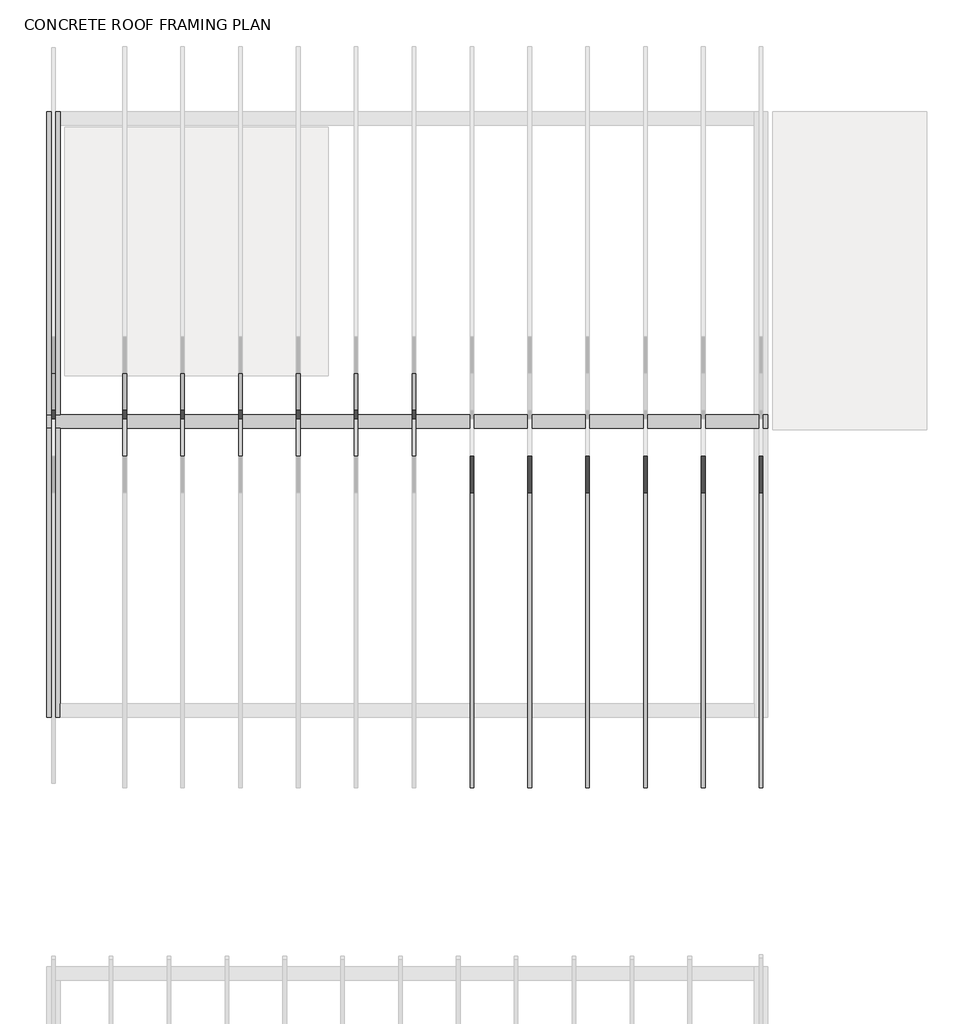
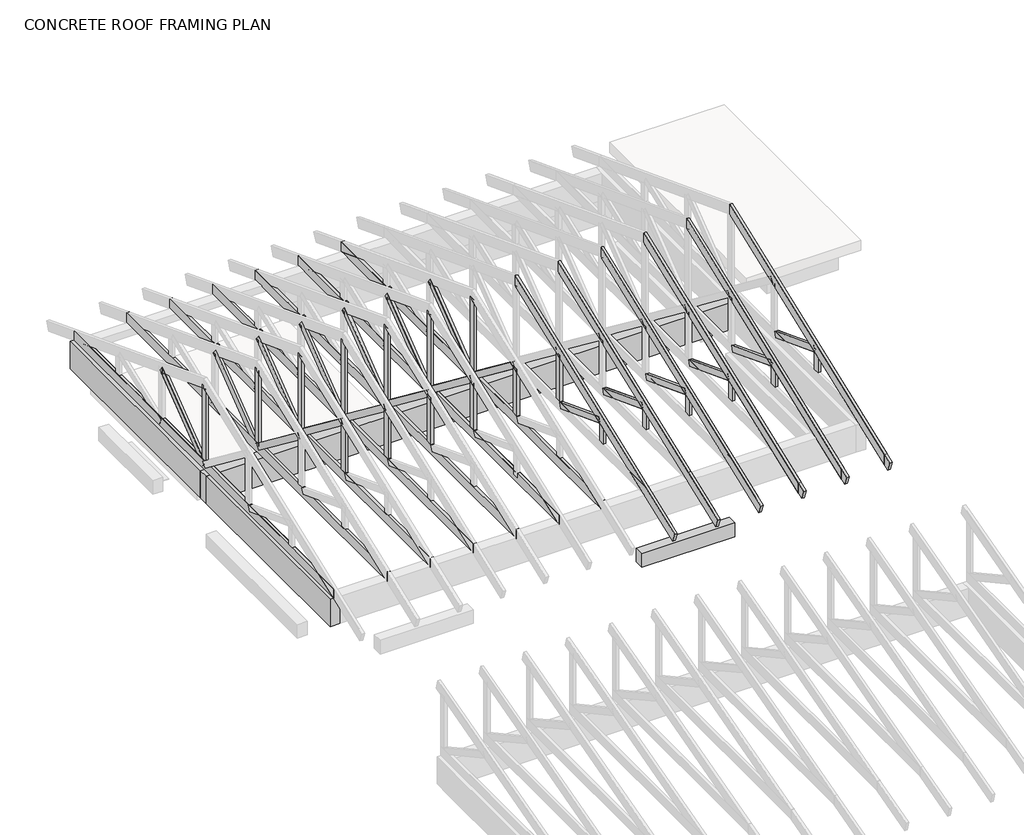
# One storey, part 3 of 6: 54 beams.
"""IFC4 building model written with IfcOpenShell, lengths in millimetres."""

from ifc_helpers import new_model, si_unit, frame, origin, place, context, project, spatial, polyline, outline, extrude, faceted_brep, element, save

model = new_model("IFC4")

# Units and contexts
model_context = context("Model", 3, world=origin())
ifc_project = project(units=[si_unit("LENGTHUNIT", "METRE", prefix="MILLI")], contexts=[model_context])

# Site, building, storey
site = spatial("IfcSite", under=ifc_project)
building = spatial("IfcBuilding", under=site)
storey = spatial("IfcBuildingStorey", under=building, Name="CONCRETE ROOF FRAMING PLAN", Elevation=3048.0)

# Beams
placement = place(None, origin())
element("IfcBeam", 1, ObjectType="Concrete-Rectangular Beam : 5 5/8 x 16", at=placement, inside=storey, context=model_context, shape_type="Brep", body=[
    faceted_brep([(7610.475, 3052.7625, 3200.4), (7610.475, 3195.6375, 3200.4), (7467.6, 3195.6375, 3200.4), (152.4, 3195.6375, 3200.4), (9.525, 3195.6375, 3200.4), (9.525, 3052.7625, 3200.4), (152.4, 3052.7625, 3200.4), (7467.6, 3052.7625, 3200.4), (7610.475, 3052.7625, 2794.0), (9.525, 3052.7625, 2794.0), (152.4, 3052.7625, 2794.0), (3606.8, 3052.7625, 2794.0), (5384.8, 3052.7625, 2794.0), (7467.6, 3052.7625, 2794.0), (7610.475, 3195.6375, 2794.0), (9.525, 3195.6375, 2794.0), (152.4, 3195.6375, 2794.0), (3606.8, 3195.6375, 2794.0), (5384.8, 3195.6375, 2794.0), (7467.6, 3195.6375, 2794.0)], [[[0, 1, 2, 3, 4, 5, 6, 7]], [[8, 0, 7, 6, 5, 9, 10, 11, 12, 13]], [[14, 8, 13, 12, 11, 10, 9, 15, 16, 17, 18, 19]], [[1, 14, 19, 18, 17, 16, 15, 4, 3, 2]], [[1, 0, 8, 14]], [[5, 4, 15, 9]]]),
])
element("IfcBeam", 2, ObjectType="Concrete-Rectangular Beam : 5 5/8 x 16", at=placement, inside=storey, context=model_context, shape_type="Brep", body=[
    faceted_brep([(9.525, 9.525, 3200.4), (152.4, 9.525, 3200.4), (152.4, 152.4, 3200.4), (152.4, 3052.7625, 3200.4), (9.525, 3052.7625, 3200.4), (9.525, 9.525, 2794.0), (9.525, 3052.7625, 2794.0), (152.4, 9.525, 2794.0), (152.4, 3052.7625, 2794.0), (152.4, 152.4, 2794.0)], [[[0, 1, 2, 3, 4]], [[5, 0, 4, 6]], [[7, 5, 6, 8, 9]], [[1, 7, 9, 8, 3, 2]], [[1, 0, 5, 7]], [[4, 3, 8, 6]]]),
    faceted_brep([(9.525, 6391.2749888, 3200.4), (152.4, 6391.2749888, 3200.4), (152.4, 6391.2749888, 2794.0), (9.525, 6391.2749888, 2794.0), (152.4, 3195.6375, 3200.4), (9.525, 3195.6375, 3200.4), (9.525, 3195.6375, 2794.0), (152.4, 3195.6375, 2794.0), (152.4, 6248.4, 3200.4)], [[[0, 1, 2, 3]], [[4, 5, 6, 7]], [[1, 0, 5, 4, 8]], [[0, 3, 6, 5]], [[3, 2, 7, 6]], [[2, 1, 8, 4, 7]]]),
])
element("IfcBeam", 3, ObjectType="Concrete-Rectangular Beam : 5 5/8 x 8", at=placement, inside=storey, context=model_context, shape_type="SweptSolid", body=[
    extrude(outline(polyline([(5753.1, 152.4), (5753.1, 9.525), (4432.3, 9.525), (4432.3, 152.4), (5753.1, 152.4)])), frame((0.0, 0.0, 2133.6), z_axis=(0.0, 0.0, 1.0), x_axis=(1.0, 0.0, 0.0)), (0.0, 0.0, 1.0), 203.2),
])
element("IfcBeam", 4, ObjectType="Dimension Lumber : 2x4", at=placement, inside=storey, context=model_context, shape_type="SweptSolid", body=[
    extrude(outline(polyline([(61.9125, 3154.3624888), (61.9125, 3243.2624888), (100.0125, 3243.2624888), (100.0125, 3154.3624888), (61.9125, 3154.3624888)])), frame((0.0, 0.0, 3270.25), z_axis=(0.0, 0.0, 1.0), x_axis=(1.0, 0.0, 0.0)), (0.0, 0.0, 1.0), 1178.509814),
    extrude(outline(polyline([(100.0125, 3243.2624888), (100.0125, 3154.3624888), (61.9125, 3154.3624888), (61.9125, 3243.2624888), (100.0125, 3243.2624888)])), frame((0.0, 0.0, 3340.1), z_axis=(0.0, 0.0, 1.0), x_axis=(1.0, 0.0, 0.0)), (0.0, 0.0, 1.0), 1108.659814),
    extrude(outline(polyline([(3243.2624888, 4397.6909709), (3243.2624888, 3340.1), (3154.3624888, 3340.1), (3154.3624888, 4431.6587321), (3243.2624888, 4397.6909709)])), frame((61.9125, 0.0, 0.0), z_axis=(1.0, 0.0, 0.0), x_axis=(0.0, 1.0, 0.0)), (0.0, 0.0, 1.0), 38.1),
    extrude(outline(polyline([(3243.2624888, 4397.6909709), (3243.2624888, 3340.1), (3154.3624888, 3340.1), (3154.3624888, 4397.6909709), (3198.8124888, 4414.6748515), (3243.2624888, 4397.6909709)])), frame((61.9125, 0.0, 0.0), z_axis=(1.0, 0.0, 0.0), x_axis=(0.0, 1.0, 0.0)), (0.0, 0.0, 1.0), 38.1),
])
element("IfcBeam", 5, ObjectType="Dimension Lumber : 2x4", at=placement, inside=storey, context=model_context, shape_type="SweptSolid", body=[
    extrude(outline(polyline([(0.0, -38.1), (0.0, 0.0), (1323.713521, 0.0), (1323.713521, -38.1), (0.0, -38.1)])), frame((61.9125, 3225.8019048, 3234.9318188), z_axis=(0.0, -0.6071859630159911, 0.7945597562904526), x_axis=(0.0, 0.7945597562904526, 0.6071859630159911)), (0.0, 0.0, 1.0), 88.9),
    extrude(outline(polyline([(3217.011195, 3340.1), (4223.5925653, 4109.3084501), (4277.5713974, 4038.6720878), (3363.4243294, 3340.1), (3217.011195, 3340.1)])), frame((61.9125, 0.0, 0.0), z_axis=(1.0, 0.0, 0.0), x_axis=(0.0, 1.0, 0.0)), (0.0, 0.0, 1.0), 38.1),
    extrude(outline(polyline([(3217.011195, 3340.1), (4148.3995827, 4051.847544), (4246.0083389, 4014.552258), (3363.4243294, 3340.1), (3217.011195, 3340.1)])), frame((61.9125, 0.0, 0.0), z_axis=(1.0, 0.0, 0.0), x_axis=(0.0, 1.0, 0.0)), (0.0, 0.0, 1.0), 38.1),
])
element("IfcBeam", 6, ObjectType="Dimension Lumber : 2x4", at=placement, inside=storey, context=model_context, shape_type="SweptSolid", body=[
    extrude(outline(polyline([(7519.9875, 1027.1124888), (7519.9875, 1116.0124888), (7558.0875, 1116.0124888), (7558.0875, 1027.1124888), (7519.9875, 1027.1124888)])), frame((0.0, 0.0, 3352.8), z_axis=(0.0, 0.0, 1.0), x_axis=(1.0, 0.0, 0.0)), (0.0, 0.0, 1.0), 323.85),
    extrude(outline(polyline([(1116.0124888, 3618.8587321), (1116.0124888, 3352.8), (1027.1124888, 3352.8), (1027.1124888, 3584.8909709), (1116.0124888, 3618.8587321)])), frame((7519.9875, 0.0, 0.0), z_axis=(1.0, 0.0, 0.0), x_axis=(0.0, 1.0, 0.0)), (0.0, 0.0, 1.0), 38.1),
])
element("IfcBeam", 7, ObjectType="Dimension Lumber : 2x4", at=placement, inside=storey, context=model_context, shape_type="SweptSolid", body=[
    extrude(outline(polyline([(0.0, -38.1), (0.0, 0.0), (1032.1068258, 0.0), (1032.1068258, -38.1), (0.0, -38.1)])), frame((7519.9875, 1100.1472704, 3618.1438682), z_axis=(0.0, 0.35692279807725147, 0.9341338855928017), x_axis=(0.0, 0.9341338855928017, -0.35692279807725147)), (0.0, 0.0, 1.0), 88.9),
    extrude(outline(polyline([(1231.6811483, 3663.0545185), (2096.0036667, 3332.8059144), (2064.2732299, 3249.761412), (1107.1444131, 3615.4703331), (1231.6811483, 3663.0545185)])), frame((7519.9875, 0.0, 0.0), z_axis=(1.0, 0.0, 0.0), x_axis=(0.0, 1.0, 0.0)), (0.0, 0.0, 1.0), 38.1),
    extrude(outline(polyline([(1231.6811483, 3663.0545185), (2076.9136771, 3340.1), (1827.8402067, 3340.1), (1107.1444131, 3615.4703331), (1231.6811483, 3663.0545185)])), frame((7519.9875, 0.0, 0.0), z_axis=(1.0, 0.0, 0.0), x_axis=(0.0, 1.0, 0.0)), (0.0, 0.0, 1.0), 38.1),
])
element("IfcBeam", 8, ObjectType="Dimension Lumber : 2x4", at=placement, inside=storey, context=model_context, shape_type="SweptSolid", body=[
    extrude(outline(polyline([(6910.3875, 1027.1124888), (6910.3875, 1116.0124888), (6948.4875, 1116.0124888), (6948.4875, 1027.1124888), (6910.3875, 1027.1124888)])), frame((0.0, 0.0, 3352.8), z_axis=(0.0, 0.0, 1.0), x_axis=(1.0, 0.0, 0.0)), (0.0, 0.0, 1.0), 323.85),
    extrude(outline(polyline([(1116.0124888, 3618.8587321), (1116.0124888, 3352.8), (1027.1124888, 3352.8), (1027.1124888, 3584.8909709), (1116.0124888, 3618.8587321)])), frame((6910.3875, 0.0, 0.0), z_axis=(1.0, 0.0, 0.0), x_axis=(0.0, 1.0, 0.0)), (0.0, 0.0, 1.0), 38.1),
])
element("IfcBeam", 9, ObjectType="Dimension Lumber : 2x4", at=placement, inside=storey, context=model_context, shape_type="SweptSolid", body=[
    extrude(outline(polyline([(0.0, -38.1), (0.0, 0.0), (1032.1068258, 0.0), (1032.1068258, -38.1), (0.0, -38.1)])), frame((6910.3875, 1100.1472704, 3618.1438682), z_axis=(0.0, 0.35692279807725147, 0.9341338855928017), x_axis=(0.0, 0.9341338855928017, -0.35692279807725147)), (0.0, 0.0, 1.0), 88.9),
    extrude(outline(polyline([(1231.6811483, 3663.0545185), (2096.0036667, 3332.8059144), (2064.2732299, 3249.761412), (1107.1444131, 3615.4703331), (1231.6811483, 3663.0545185)])), frame((6910.3875, 0.0, 0.0), z_axis=(1.0, 0.0, 0.0), x_axis=(0.0, 1.0, 0.0)), (0.0, 0.0, 1.0), 38.1),
    extrude(outline(polyline([(1231.6811483, 3663.0545185), (2076.9136771, 3340.1), (1827.8402067, 3340.1), (1107.1444131, 3615.4703331), (1231.6811483, 3663.0545185)])), frame((6910.3875, 0.0, 0.0), z_axis=(1.0, 0.0, 0.0), x_axis=(0.0, 1.0, 0.0)), (0.0, 0.0, 1.0), 38.1),
])
element("IfcBeam", 10, ObjectType="Dimension Lumber : 2x4", at=placement, inside=storey, context=model_context, shape_type="SweptSolid", body=[
    extrude(outline(polyline([(6300.7875, 1027.1124888), (6300.7875, 1116.0124888), (6338.8875, 1116.0124888), (6338.8875, 1027.1124888), (6300.7875, 1027.1124888)])), frame((0.0, 0.0, 3352.8), z_axis=(0.0, 0.0, 1.0), x_axis=(1.0, 0.0, 0.0)), (0.0, 0.0, 1.0), 323.85),
    extrude(outline(polyline([(1116.0124888, 3618.8587321), (1116.0124888, 3352.8), (1027.1124888, 3352.8), (1027.1124888, 3584.8909709), (1116.0124888, 3618.8587321)])), frame((6300.7875, 0.0, 0.0), z_axis=(1.0, 0.0, 0.0), x_axis=(0.0, 1.0, 0.0)), (0.0, 0.0, 1.0), 38.1),
])
element("IfcBeam", 11, ObjectType="Dimension Lumber : 2x4", at=placement, inside=storey, context=model_context, shape_type="SweptSolid", body=[
    extrude(outline(polyline([(0.0, -38.1), (0.0, 0.0), (1032.1068258, 0.0), (1032.1068258, -38.1), (0.0, -38.1)])), frame((6300.7875, 1100.1472704, 3618.1438682), z_axis=(0.0, 0.35692279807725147, 0.9341338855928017), x_axis=(0.0, 0.9341338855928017, -0.35692279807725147)), (0.0, 0.0, 1.0), 88.9),
    extrude(outline(polyline([(1231.6811483, 3663.0545185), (2096.0036667, 3332.8059144), (2064.2732299, 3249.761412), (1107.1444131, 3615.4703331), (1231.6811483, 3663.0545185)])), frame((6300.7875, 0.0, 0.0), z_axis=(1.0, 0.0, 0.0), x_axis=(0.0, 1.0, 0.0)), (0.0, 0.0, 1.0), 38.1),
    extrude(outline(polyline([(1231.6811483, 3663.0545185), (2076.9136771, 3340.1), (1827.8402067, 3340.1), (1107.1444131, 3615.4703331), (1231.6811483, 3663.0545185)])), frame((6300.7875, 0.0, 0.0), z_axis=(1.0, 0.0, 0.0), x_axis=(0.0, 1.0, 0.0)), (0.0, 0.0, 1.0), 38.1),
])
element("IfcBeam", 12, ObjectType="Dimension Lumber : 2x4", at=placement, inside=storey, context=model_context, shape_type="SweptSolid", body=[
    extrude(outline(polyline([(5691.1875, 1027.1124888), (5691.1875, 1116.0124888), (5729.2875, 1116.0124888), (5729.2875, 1027.1124888), (5691.1875, 1027.1124888)])), frame((0.0, 0.0, 3352.8), z_axis=(0.0, 0.0, 1.0), x_axis=(1.0, 0.0, 0.0)), (0.0, 0.0, 1.0), 323.85),
    extrude(outline(polyline([(1116.0124888, 3618.8587321), (1116.0124888, 3352.8), (1027.1124888, 3352.8), (1027.1124888, 3584.8909709), (1116.0124888, 3618.8587321)])), frame((5691.1875, 0.0, 0.0), z_axis=(1.0, 0.0, 0.0), x_axis=(0.0, 1.0, 0.0)), (0.0, 0.0, 1.0), 38.1),
])
element("IfcBeam", 13, ObjectType="Dimension Lumber : 2x4", at=placement, inside=storey, context=model_context, shape_type="SweptSolid", body=[
    extrude(outline(polyline([(0.0, -38.1), (0.0, 0.0), (1032.1068258, 0.0), (1032.1068258, -38.1), (0.0, -38.1)])), frame((5691.1875, 1100.1472704, 3618.1438682), z_axis=(0.0, 0.35692279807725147, 0.9341338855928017), x_axis=(0.0, 0.9341338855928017, -0.35692279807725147)), (0.0, 0.0, 1.0), 88.9),
    extrude(outline(polyline([(1231.6811483, 3663.0545185), (2096.0036667, 3332.8059144), (2064.2732299, 3249.761412), (1107.1444131, 3615.4703331), (1231.6811483, 3663.0545185)])), frame((5691.1875, 0.0, 0.0), z_axis=(1.0, 0.0, 0.0), x_axis=(0.0, 1.0, 0.0)), (0.0, 0.0, 1.0), 38.1),
    extrude(outline(polyline([(1231.6811483, 3663.0545185), (2076.9136771, 3340.1), (1827.8402067, 3340.1), (1107.1444131, 3615.4703331), (1231.6811483, 3663.0545185)])), frame((5691.1875, 0.0, 0.0), z_axis=(1.0, 0.0, 0.0), x_axis=(0.0, 1.0, 0.0)), (0.0, 0.0, 1.0), 38.1),
])
element("IfcBeam", 14, ObjectType="Dimension Lumber : 2x4", at=placement, inside=storey, context=model_context, shape_type="SweptSolid", body=[
    extrude(outline(polyline([(5081.5875, 1027.1124888), (5081.5875, 1116.0124888), (5119.6875, 1116.0124888), (5119.6875, 1027.1124888), (5081.5875, 1027.1124888)])), frame((0.0, 0.0, 3352.8), z_axis=(0.0, 0.0, 1.0), x_axis=(1.0, 0.0, 0.0)), (0.0, 0.0, 1.0), 323.85),
    extrude(outline(polyline([(1116.0124888, 3618.8587321), (1116.0124888, 3352.8), (1027.1124888, 3352.8), (1027.1124888, 3584.8909709), (1116.0124888, 3618.8587321)])), frame((5081.5875, 0.0, 0.0), z_axis=(1.0, 0.0, 0.0), x_axis=(0.0, 1.0, 0.0)), (0.0, 0.0, 1.0), 38.1),
])
element("IfcBeam", 15, ObjectType="Dimension Lumber : 2x4", at=placement, inside=storey, context=model_context, shape_type="SweptSolid", body=[
    extrude(outline(polyline([(0.0, -38.1), (0.0, 0.0), (1032.1068258, 0.0), (1032.1068258, -38.1), (0.0, -38.1)])), frame((5081.5875, 1100.1472704, 3618.1438682), z_axis=(0.0, 0.35692279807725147, 0.9341338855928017), x_axis=(0.0, 0.9341338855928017, -0.35692279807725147)), (0.0, 0.0, 1.0), 88.9),
    extrude(outline(polyline([(1231.6811483, 3663.0545185), (2096.0036667, 3332.8059144), (2064.2732299, 3249.761412), (1107.1444131, 3615.4703331), (1231.6811483, 3663.0545185)])), frame((5081.5875, 0.0, 0.0), z_axis=(1.0, 0.0, 0.0), x_axis=(0.0, 1.0, 0.0)), (0.0, 0.0, 1.0), 38.1),
    extrude(outline(polyline([(1231.6811483, 3663.0545185), (2076.9136771, 3340.1), (1827.8402067, 3340.1), (1107.1444131, 3615.4703331), (1231.6811483, 3663.0545185)])), frame((5081.5875, 0.0, 0.0), z_axis=(1.0, 0.0, 0.0), x_axis=(0.0, 1.0, 0.0)), (0.0, 0.0, 1.0), 38.1),
])
element("IfcBeam", 16, ObjectType="Dimension Lumber : 2x4", at=placement, inside=storey, context=model_context, shape_type="SweptSolid", body=[
    extrude(outline(polyline([(4471.9875, 2090.7374888), (4471.9875, 2179.6374888), (4510.0875, 2179.6374888), (4510.0875, 2090.7374888), (4471.9875, 2090.7374888)])), frame((0.0, 0.0, 3340.1), z_axis=(0.0, 0.0, 1.0), x_axis=(1.0, 0.0, 0.0)), (0.0, 0.0, 1.0), 702.294826),
    extrude(outline(polyline([(2179.6374888, 4025.2587321), (2179.6374888, 3340.1), (2090.7374888, 3340.1), (2090.7374888, 3991.2909709), (2179.6374888, 4025.2587321)])), frame((4471.9875, 0.0, 0.0), z_axis=(1.0, 0.0, 0.0), x_axis=(0.0, 1.0, 0.0)), (0.0, 0.0, 1.0), 38.1),
])
element("IfcBeam", 17, ObjectType="Dimension Lumber : 2x4", at=placement, inside=storey, context=model_context, shape_type="SweptSolid", body=[
    extrude(outline(polyline([(4471.9875, 1027.1124888), (4471.9875, 1116.0124888), (4510.0875, 1116.0124888), (4510.0875, 1027.1124888), (4471.9875, 1027.1124888)])), frame((0.0, 0.0, 3352.8), z_axis=(0.0, 0.0, 1.0), x_axis=(1.0, 0.0, 0.0)), (0.0, 0.0, 1.0), 323.85),
    extrude(outline(polyline([(1116.0124888, 3618.8587321), (1116.0124888, 3352.8), (1027.1124888, 3352.8), (1027.1124888, 3584.8909709), (1116.0124888, 3618.8587321)])), frame((4471.9875, 0.0, 0.0), z_axis=(1.0, 0.0, 0.0), x_axis=(0.0, 1.0, 0.0)), (0.0, 0.0, 1.0), 38.1),
])
element("IfcBeam", 18, ObjectType="Dimension Lumber : 2x4", at=placement, inside=storey, context=model_context, shape_type="SweptSolid", body=[
    extrude(outline(polyline([(0.0, -38.1), (0.0, 0.0), (1032.1068258, 0.0), (1032.1068258, -38.1), (0.0, -38.1)])), frame((4471.9875, 1100.1472704, 3618.1438682), z_axis=(0.0, 0.35692279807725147, 0.9341338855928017), x_axis=(0.0, 0.9341338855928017, -0.35692279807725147)), (0.0, 0.0, 1.0), 88.9),
    extrude(outline(polyline([(1231.6811483, 3663.0545185), (2096.0036667, 3332.8059144), (2064.2732299, 3249.761412), (1107.1444131, 3615.4703331), (1231.6811483, 3663.0545185)])), frame((4471.9875, 0.0, 0.0), z_axis=(1.0, 0.0, 0.0), x_axis=(0.0, 1.0, 0.0)), (0.0, 0.0, 1.0), 38.1),
    extrude(outline(polyline([(1231.6811483, 3663.0545185), (2076.9136771, 3340.1), (1827.8402067, 3340.1), (1107.1444131, 3615.4703331), (1231.6811483, 3663.0545185)])), frame((4471.9875, 0.0, 0.0), z_axis=(1.0, 0.0, 0.0), x_axis=(0.0, 1.0, 0.0)), (0.0, 0.0, 1.0), 38.1),
])
element("IfcBeam", 19, ObjectType="Dimension Lumber : 2x4", at=placement, inside=storey, context=model_context, shape_type="SweptSolid", body=[
    extrude(outline(polyline([(3862.3875, 3154.3624888), (3862.3875, 3243.2624888), (3900.4875, 3243.2624888), (3900.4875, 3154.3624888), (3862.3875, 3154.3624888)])), frame((0.0, 0.0, 3308.7927893), z_axis=(0.0, 0.0, 1.0), x_axis=(1.0, 0.0, 0.0)), (0.0, 0.0, 1.0), 1133.0716475),
    extrude(outline(polyline([(3243.2624888, 4397.6909709), (3243.2624888, 3308.7927893), (3154.3624888, 3308.7927893), (3154.3624888, 4431.6587321), (3243.2624888, 4397.6909709)])), frame((3862.3875, 0.0, 0.0), z_axis=(1.0, 0.0, 0.0), x_axis=(0.0, 1.0, 0.0)), (0.0, 0.0, 1.0), 38.1),
    extrude(outline(polyline([(3243.2624888, 4397.6909709), (3243.2624888, 3308.7927893), (3154.3624888, 3308.7927893), (3154.3624888, 4397.6909709), (3198.8124888, 4414.6748515), (3243.2624888, 4397.6909709)])), frame((3862.3875, 0.0, 0.0), z_axis=(1.0, 0.0, 0.0), x_axis=(0.0, 1.0, 0.0)), (0.0, 0.0, 1.0), 38.1),
    extrude(outline(polyline([(3243.2624888, 4397.6909709), (3243.2624888, 3340.1), (3154.3624888, 3340.1), (3154.3624888, 4397.6909709), (3198.8124888, 4414.6748515), (3243.2624888, 4397.6909709)])), frame((3862.3875, 0.0, 0.0), z_axis=(1.0, 0.0, 0.0), x_axis=(0.0, 1.0, 0.0)), (0.0, 0.0, 1.0), 38.1),
])
element("IfcBeam", 20, ObjectType="Dimension Lumber : 2x4", at=placement, inside=storey, context=model_context, shape_type="SweptSolid", body=[
    extrude(outline(polyline([(3862.3875, 2090.7374888), (3862.3875, 2179.6374888), (3900.4875, 2179.6374888), (3900.4875, 2090.7374888), (3862.3875, 2090.7374888)])), frame((0.0, 0.0, 3340.1), z_axis=(0.0, 0.0, 1.0), x_axis=(1.0, 0.0, 0.0)), (0.0, 0.0, 1.0), 702.294826),
    extrude(outline(polyline([(2179.6374888, 4025.2587321), (2179.6374888, 3340.1), (2090.7374888, 3340.1), (2090.7374888, 3991.2909709), (2179.6374888, 4025.2587321)])), frame((3862.3875, 0.0, 0.0), z_axis=(1.0, 0.0, 0.0), x_axis=(0.0, 1.0, 0.0)), (0.0, 0.0, 1.0), 38.1),
])
element("IfcBeam", 21, ObjectType="Dimension Lumber : 2x4", at=placement, inside=storey, context=model_context, shape_type="SweptSolid", body=[
    extrude(outline(polyline([(0.0, -38.1), (0.0, 0.0), (1268.1063806, 0.0), (1268.1063806, -38.1), (0.0, -38.1)])), frame((3862.3875, 3262.4051884, 3262.9032833), z_axis=(0.0, -0.6071859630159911, 0.7945597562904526), x_axis=(0.0, 0.7945597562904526, 0.6071859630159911)), (0.0, 0.0, 1.0), 88.9),
    extrude(outline(polyline([(3217.011195, 3340.1), (4216.012653, 4103.5160396), (4269.9914851, 4032.8796772), (3363.4243294, 3340.1), (3217.011195, 3340.1)])), frame((3862.3875, 0.0, 0.0), z_axis=(1.0, 0.0, 0.0), x_axis=(0.0, 1.0, 0.0)), (0.0, 0.0, 1.0), 38.1),
    extrude(outline(polyline([(3217.011195, 3340.1), (4148.3995827, 4051.847544), (4246.0083389, 4014.552258), (3363.4243294, 3340.1), (3217.011195, 3340.1)])), frame((3862.3875, 0.0, 0.0), z_axis=(1.0, 0.0, 0.0), x_axis=(0.0, 1.0, 0.0)), (0.0, 0.0, 1.0), 38.1),
])
element("IfcBeam", 22, ObjectType="Dimension Lumber : 2x4", at=placement, inside=storey, context=model_context, shape_type="SweptSolid", body=[
    extrude(outline(polyline([(0.0, -38.1), (0.0, 0.0), (1278.704905, 0.0), (1278.704905, -38.1), (0.0, -38.1)])), frame((3862.3875, 2137.2208186, 4025.5532429), z_axis=(0.0, 0.6071859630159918, 0.7945597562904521), x_axis=(0.0, 0.7945597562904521, -0.6071859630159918)), (0.0, 0.0, 1.0), 88.9),
    extrude(outline(polyline([(2249.2253949, 4051.847544), (3207.2071084, 3319.7779361), (3153.2282763, 3249.1415737), (2151.6166386, 4014.552258), (2249.2253949, 4051.847544)])), frame((3862.3875, 0.0, 0.0), z_axis=(1.0, 0.0, 0.0), x_axis=(0.0, 1.0, 0.0)), (0.0, 0.0, 1.0), 38.1),
    extrude(outline(polyline([(2249.2253949, 4051.847544), (3180.6137825, 3340.1), (3034.2006481, 3340.1), (2151.6166386, 4014.552258), (2249.2253949, 4051.847544)])), frame((3862.3875, 0.0, 0.0), z_axis=(1.0, 0.0, 0.0), x_axis=(0.0, 1.0, 0.0)), (0.0, 0.0, 1.0), 38.1),
])
element("IfcBeam", 23, ObjectType="Dimension Lumber : 2x4", at=placement, inside=storey, context=model_context, shape_type="SweptSolid", body=[
    extrude(outline(polyline([(3252.7875, 3154.3624888), (3252.7875, 3243.2624888), (3290.8875, 3243.2624888), (3290.8875, 3154.3624888), (3252.7875, 3154.3624888)])), frame((0.0, 0.0, 3308.7927893), z_axis=(0.0, 0.0, 1.0), x_axis=(1.0, 0.0, 0.0)), (0.0, 0.0, 1.0), 1133.0716475),
    extrude(outline(polyline([(3243.2624888, 4397.6909709), (3243.2624888, 3308.7927893), (3154.3624888, 3308.7927893), (3154.3624888, 4431.6587321), (3243.2624888, 4397.6909709)])), frame((3252.7875, 0.0, 0.0), z_axis=(1.0, 0.0, 0.0), x_axis=(0.0, 1.0, 0.0)), (0.0, 0.0, 1.0), 38.1),
    extrude(outline(polyline([(3243.2624888, 4397.6909709), (3243.2624888, 3308.7927893), (3154.3624888, 3308.7927893), (3154.3624888, 4397.6909709), (3198.8124888, 4414.6748515), (3243.2624888, 4397.6909709)])), frame((3252.7875, 0.0, 0.0), z_axis=(1.0, 0.0, 0.0), x_axis=(0.0, 1.0, 0.0)), (0.0, 0.0, 1.0), 38.1),
    extrude(outline(polyline([(3243.2624888, 4397.6909709), (3243.2624888, 3340.1), (3154.3624888, 3340.1), (3154.3624888, 4397.6909709), (3198.8124888, 4414.6748515), (3243.2624888, 4397.6909709)])), frame((3252.7875, 0.0, 0.0), z_axis=(1.0, 0.0, 0.0), x_axis=(0.0, 1.0, 0.0)), (0.0, 0.0, 1.0), 38.1),
])
element("IfcBeam", 24, ObjectType="Dimension Lumber : 2x4", at=placement, inside=storey, context=model_context, shape_type="SweptSolid", body=[
    extrude(outline(polyline([(3252.7875, 2090.7374888), (3252.7875, 2179.6374888), (3290.8875, 2179.6374888), (3290.8875, 2090.7374888), (3252.7875, 2090.7374888)])), frame((0.0, 0.0, 3340.1), z_axis=(0.0, 0.0, 1.0), x_axis=(1.0, 0.0, 0.0)), (0.0, 0.0, 1.0), 702.294826),
    extrude(outline(polyline([(2179.6374888, 4025.2587321), (2179.6374888, 3340.1), (2090.7374888, 3340.1), (2090.7374888, 3991.2909709), (2179.6374888, 4025.2587321)])), frame((3252.7875, 0.0, 0.0), z_axis=(1.0, 0.0, 0.0), x_axis=(0.0, 1.0, 0.0)), (0.0, 0.0, 1.0), 38.1),
])
element("IfcBeam", 25, ObjectType="Dimension Lumber : 2x4", at=placement, inside=storey, context=model_context, shape_type="SweptSolid", body=[
    extrude(outline(polyline([(0.0, -38.1), (0.0, 0.0), (1268.1063806, 0.0), (1268.1063806, -38.1), (0.0, -38.1)])), frame((3252.7875, 3262.4051884, 3262.9032833), z_axis=(0.0, -0.6071859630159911, 0.7945597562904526), x_axis=(0.0, 0.7945597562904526, 0.6071859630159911)), (0.0, 0.0, 1.0), 88.9),
    extrude(outline(polyline([(3217.011195, 3340.1), (4216.012653, 4103.5160396), (4269.9914851, 4032.8796772), (3363.4243294, 3340.1), (3217.011195, 3340.1)])), frame((3252.7875, 0.0, 0.0), z_axis=(1.0, 0.0, 0.0), x_axis=(0.0, 1.0, 0.0)), (0.0, 0.0, 1.0), 38.1),
    extrude(outline(polyline([(3217.011195, 3340.1), (4148.3995827, 4051.847544), (4246.0083389, 4014.552258), (3363.4243294, 3340.1), (3217.011195, 3340.1)])), frame((3252.7875, 0.0, 0.0), z_axis=(1.0, 0.0, 0.0), x_axis=(0.0, 1.0, 0.0)), (0.0, 0.0, 1.0), 38.1),
])
element("IfcBeam", 26, ObjectType="Dimension Lumber : 2x4", at=placement, inside=storey, context=model_context, shape_type="SweptSolid", body=[
    extrude(outline(polyline([(0.0, -38.1), (0.0, 0.0), (1278.704905, 0.0), (1278.704905, -38.1), (0.0, -38.1)])), frame((3252.7875, 2137.2208186, 4025.5532429), z_axis=(0.0, 0.6071859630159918, 0.7945597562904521), x_axis=(0.0, 0.7945597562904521, -0.6071859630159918)), (0.0, 0.0, 1.0), 88.9),
    extrude(outline(polyline([(2249.2253949, 4051.847544), (3207.2071084, 3319.7779361), (3153.2282763, 3249.1415737), (2151.6166386, 4014.552258), (2249.2253949, 4051.847544)])), frame((3252.7875, 0.0, 0.0), z_axis=(1.0, 0.0, 0.0), x_axis=(0.0, 1.0, 0.0)), (0.0, 0.0, 1.0), 38.1),
    extrude(outline(polyline([(2249.2253949, 4051.847544), (3180.6137825, 3340.1), (3034.2006481, 3340.1), (2151.6166386, 4014.552258), (2249.2253949, 4051.847544)])), frame((3252.7875, 0.0, 0.0), z_axis=(1.0, 0.0, 0.0), x_axis=(0.0, 1.0, 0.0)), (0.0, 0.0, 1.0), 38.1),
])
element("IfcBeam", 27, ObjectType="Dimension Lumber : 2x4", at=placement, inside=storey, context=model_context, shape_type="SweptSolid", body=[
    extrude(outline(polyline([(2643.1875, 3154.3624888), (2643.1875, 3243.2624888), (2681.2875, 3243.2624888), (2681.2875, 3154.3624888), (2643.1875, 3154.3624888)])), frame((0.0, 0.0, 3308.7927893), z_axis=(0.0, 0.0, 1.0), x_axis=(1.0, 0.0, 0.0)), (0.0, 0.0, 1.0), 1133.0716475),
])
element("IfcBeam", 28, ObjectType="Dimension Lumber : 2x4", at=placement, inside=storey, context=model_context, shape_type="SweptSolid", body=[
    extrude(outline(polyline([(2643.1875, 2090.7374888), (2643.1875, 2179.6374888), (2681.2875, 2179.6374888), (2681.2875, 2090.7374888), (2643.1875, 2090.7374888)])), frame((0.0, 0.0, 3340.1), z_axis=(0.0, 0.0, 1.0), x_axis=(1.0, 0.0, 0.0)), (0.0, 0.0, 1.0), 702.294826),
])
element("IfcBeam", 29, ObjectType="Dimension Lumber : 2x4", at=placement, inside=storey, context=model_context, shape_type="SweptSolid", body=[
    extrude(outline(polyline([(0.0, -38.1), (0.0, 0.0), (1268.1063806, 0.0), (1268.1063806, -38.1), (0.0, -38.1)])), frame((2643.1875, 3262.4051884, 3262.9032833), z_axis=(0.0, -0.6071859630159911, 0.7945597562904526), x_axis=(0.0, 0.7945597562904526, 0.6071859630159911)), (0.0, 0.0, 1.0), 88.9),
])
element("IfcBeam", 30, ObjectType="Dimension Lumber : 2x4", at=placement, inside=storey, context=model_context, shape_type="SweptSolid", body=[
    extrude(outline(polyline([(0.0, -38.1), (0.0, 0.0), (1278.704905, 0.0), (1278.704905, -38.1), (0.0, -38.1)])), frame((2643.1875, 2137.2208186, 4025.5532429), z_axis=(0.0, 0.6071859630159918, 0.7945597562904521), x_axis=(0.0, 0.7945597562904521, -0.6071859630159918)), (0.0, 0.0, 1.0), 88.9),
])
element("IfcBeam", 31, ObjectType="Dimension Lumber : 2x4", at=placement, inside=storey, context=model_context, shape_type="SweptSolid", body=[
    extrude(outline(polyline([(2033.5875, 3154.3624888), (2033.5875, 3243.2624888), (2071.6875, 3243.2624888), (2071.6875, 3154.3624888), (2033.5875, 3154.3624888)])), frame((0.0, 0.0, 3308.7927893), z_axis=(0.0, 0.0, 1.0), x_axis=(1.0, 0.0, 0.0)), (0.0, 0.0, 1.0), 1133.0716475),
])
element("IfcBeam", 32, ObjectType="Dimension Lumber : 2x4", at=placement, inside=storey, context=model_context, shape_type="SweptSolid", body=[
    extrude(outline(polyline([(2033.5875, 2090.7374888), (2033.5875, 2179.6374888), (2071.6875, 2179.6374888), (2071.6875, 2090.7374888), (2033.5875, 2090.7374888)])), frame((0.0, 0.0, 3340.1), z_axis=(0.0, 0.0, 1.0), x_axis=(1.0, 0.0, 0.0)), (0.0, 0.0, 1.0), 702.294826),
])
element("IfcBeam", 33, ObjectType="Dimension Lumber : 2x4", at=placement, inside=storey, context=model_context, shape_type="SweptSolid", body=[
    extrude(outline(polyline([(0.0, -38.1), (0.0, 0.0), (1268.1063806, 0.0), (1268.1063806, -38.1), (0.0, -38.1)])), frame((2033.5875, 3262.4051884, 3262.9032833), z_axis=(0.0, -0.6071859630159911, 0.7945597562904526), x_axis=(0.0, 0.7945597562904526, 0.6071859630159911)), (0.0, 0.0, 1.0), 88.9),
])
element("IfcBeam", 34, ObjectType="Dimension Lumber : 2x4", at=placement, inside=storey, context=model_context, shape_type="SweptSolid", body=[
    extrude(outline(polyline([(0.0, -38.1), (0.0, 0.0), (1278.704905, 0.0), (1278.704905, -38.1), (0.0, -38.1)])), frame((2033.5875, 2137.2208186, 4025.5532429), z_axis=(0.0, 0.6071859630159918, 0.7945597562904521), x_axis=(0.0, 0.7945597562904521, -0.6071859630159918)), (0.0, 0.0, 1.0), 88.9),
])
element("IfcBeam", 35, ObjectType="Dimension Lumber : 2x4", at=placement, inside=storey, context=model_context, shape_type="SweptSolid", body=[
    extrude(outline(polyline([(1423.9875, 3154.3624888), (1423.9875, 3243.2624888), (1462.0875, 3243.2624888), (1462.0875, 3154.3624888), (1423.9875, 3154.3624888)])), frame((0.0, 0.0, 3308.7927893), z_axis=(0.0, 0.0, 1.0), x_axis=(1.0, 0.0, 0.0)), (0.0, 0.0, 1.0), 1133.0716475),
])
element("IfcBeam", 36, ObjectType="Dimension Lumber : 2x4", at=placement, inside=storey, context=model_context, shape_type="SweptSolid", body=[
    extrude(outline(polyline([(1423.9875, 2090.7374888), (1423.9875, 2179.6374888), (1462.0875, 2179.6374888), (1462.0875, 2090.7374888), (1423.9875, 2090.7374888)])), frame((0.0, 0.0, 3340.1), z_axis=(0.0, 0.0, 1.0), x_axis=(1.0, 0.0, 0.0)), (0.0, 0.0, 1.0), 702.294826),
])
element("IfcBeam", 37, ObjectType="Dimension Lumber : 2x4", at=placement, inside=storey, context=model_context, shape_type="SweptSolid", body=[
    extrude(outline(polyline([(0.0, -38.1), (0.0, 0.0), (1268.1063806, 0.0), (1268.1063806, -38.1), (0.0, -38.1)])), frame((1423.9875, 3262.4051884, 3262.9032833), z_axis=(0.0, -0.6071859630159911, 0.7945597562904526), x_axis=(0.0, 0.7945597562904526, 0.6071859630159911)), (0.0, 0.0, 1.0), 88.9),
])
element("IfcBeam", 38, ObjectType="Dimension Lumber : 2x4", at=placement, inside=storey, context=model_context, shape_type="SweptSolid", body=[
    extrude(outline(polyline([(0.0, -38.1), (0.0, 0.0), (1278.704905, 0.0), (1278.704905, -38.1), (0.0, -38.1)])), frame((1423.9875, 2137.2208186, 4025.5532429), z_axis=(0.0, 0.6071859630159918, 0.7945597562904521), x_axis=(0.0, 0.7945597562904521, -0.6071859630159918)), (0.0, 0.0, 1.0), 88.9),
])
element("IfcBeam", 39, ObjectType="Dimension Lumber : 2x4", at=placement, inside=storey, context=model_context, shape_type="SweptSolid", body=[
    extrude(outline(polyline([(814.3875, 3154.3624888), (814.3875, 3243.2624888), (852.4875, 3243.2624888), (852.4875, 3154.3624888), (814.3875, 3154.3624888)])), frame((0.0, 0.0, 3308.7927893), z_axis=(0.0, 0.0, 1.0), x_axis=(1.0, 0.0, 0.0)), (0.0, 0.0, 1.0), 1133.0716475),
])
element("IfcBeam", 40, ObjectType="Dimension Lumber : 2x4", at=placement, inside=storey, context=model_context, shape_type="SweptSolid", body=[
    extrude(outline(polyline([(0.0, -38.1), (0.0, 0.0), (1268.1063806, 0.0), (1268.1063806, -38.1), (0.0, -38.1)])), frame((814.3875, 3262.4051884, 3262.9032833), z_axis=(0.0, -0.6071859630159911, 0.7945597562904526), x_axis=(0.0, 0.7945597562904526, 0.6071859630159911)), (0.0, 0.0, 1.0), 88.9),
])
element("IfcBeam", 41, ObjectType="Dimension Lumber : 2x4", at=placement, inside=storey, context=model_context, shape_type="SweptSolid", body=[
    extrude(outline(polyline([(0.0, -38.1), (0.0, 0.0), (1278.704905, 0.0), (1278.704905, -38.1), (0.0, -38.1)])), frame((814.3875, 2137.2208186, 4025.5532429), z_axis=(0.0, 0.6071859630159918, 0.7945597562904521), x_axis=(0.0, 0.7945597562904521, -0.6071859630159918)), (0.0, 0.0, 1.0), 88.9),
])
element("IfcBeam", 42, ObjectType="Dimension Lumber : 2x6", at=placement, inside=storey, context=model_context, shape_type="SweptSolid", body=[
    extrude(outline(polyline([(100.0125, 7.9374888), (61.9125, 7.9374888), (61.9125, 6389.6874888), (100.0125, 6389.6874888), (100.0125, 7.9374888)])), frame((0.0, 0.0, 3200.4), z_axis=(0.0, 0.0, 1.0), x_axis=(1.0, 0.0, 0.0)), (0.0, 0.0, 1.0), 139.7),
    extrude(outline(polyline([(386.4486196, 3340.1), (6389.6874888, 3340.1), (6389.6874888, 3200.4), (20.8275258, 3200.4), (386.4486196, 3340.1)])), frame((61.9125, 0.0, 0.0), z_axis=(1.0, 0.0, 0.0), x_axis=(0.0, 1.0, 0.0)), (0.0, 0.0, 1.0), 38.1),
    extrude(outline(polyline([(386.4486196, 3340.1), (6011.176358, 3340.1), (6376.7974517, 3200.4), (20.8275258, 3200.4), (386.4486196, 3340.1)])), frame((61.9125, 0.0, 0.0), z_axis=(1.0, 0.0, 0.0), x_axis=(0.0, 1.0, 0.0)), (0.0, 0.0, 1.0), 38.1),
])
element("IfcBeam", 43, ObjectType="Dimension Lumber : 2x6", at=placement, inside=storey, context=model_context, shape_type="SweptSolid", body=[
    extrude(outline(polyline([(-681.7545007, 2931.9507481), (-731.6166155, 3062.4492519), (3198.8124888, 4564.2251485), (3198.8124888, 4414.6748515), (-681.7545007, 2931.9507481)])), frame((7519.9875, 0.0, 0.0), z_axis=(1.0, 0.0, 0.0), x_axis=(0.0, 1.0, 0.0)), (0.0, 0.0, 1.0), 38.1),
    extrude(outline(polyline([(-603.2500225, 3111.496786), (3198.8124888, 4564.2251485), (3198.8124888, 4414.6748515), (-603.2500225, 2961.946489), (-603.2500225, 3111.496786)])), frame((7519.9875, 0.0, 0.0), z_axis=(1.0, 0.0, 0.0), x_axis=(0.0, 1.0, 0.0)), (0.0, 0.0, 1.0), 38.1),
])
element("IfcBeam", 44, ObjectType="Dimension Lumber : 2x6", at=placement, inside=storey, context=model_context, shape_type="SweptSolid", body=[
    extrude(outline(polyline([(-681.7545007, 2931.9507481), (-731.6166155, 3062.4492519), (3198.8124888, 4564.2251485), (3198.8124888, 4414.6748515), (-681.7545007, 2931.9507481)])), frame((6910.3875, 0.0, 0.0), z_axis=(1.0, 0.0, 0.0), x_axis=(0.0, 1.0, 0.0)), (0.0, 0.0, 1.0), 38.1),
    extrude(outline(polyline([(-603.2500225, 3111.496786), (3198.8124888, 4564.2251485), (3198.8124888, 4414.6748515), (-603.2500225, 2961.946489), (-603.2500225, 3111.496786)])), frame((6910.3875, 0.0, 0.0), z_axis=(1.0, 0.0, 0.0), x_axis=(0.0, 1.0, 0.0)), (0.0, 0.0, 1.0), 38.1),
])
element("IfcBeam", 45, ObjectType="Dimension Lumber : 2x6", at=placement, inside=storey, context=model_context, shape_type="SweptSolid", body=[
    extrude(outline(polyline([(-681.7545007, 2931.9507481), (-731.6166155, 3062.4492519), (3198.8124888, 4564.2251485), (3198.8124888, 4414.6748515), (-681.7545007, 2931.9507481)])), frame((6300.7875, 0.0, 0.0), z_axis=(1.0, 0.0, 0.0), x_axis=(0.0, 1.0, 0.0)), (0.0, 0.0, 1.0), 38.1),
    extrude(outline(polyline([(-603.2500225, 3111.496786), (3198.8124888, 4564.2251485), (3198.8124888, 4414.6748515), (-603.2500225, 2961.946489), (-603.2500225, 3111.496786)])), frame((6300.7875, 0.0, 0.0), z_axis=(1.0, 0.0, 0.0), x_axis=(0.0, 1.0, 0.0)), (0.0, 0.0, 1.0), 38.1),
])
element("IfcBeam", 46, ObjectType="Dimension Lumber : 2x6", at=placement, inside=storey, context=model_context, shape_type="SweptSolid", body=[
    extrude(outline(polyline([(-681.7545007, 2931.9507481), (-731.6166155, 3062.4492519), (3198.8124888, 4564.2251485), (3198.8124888, 4414.6748515), (-681.7545007, 2931.9507481)])), frame((5691.1875, 0.0, 0.0), z_axis=(1.0, 0.0, 0.0), x_axis=(0.0, 1.0, 0.0)), (0.0, 0.0, 1.0), 38.1),
    extrude(outline(polyline([(-603.2500225, 3111.496786), (3198.8124888, 4564.2251485), (3198.8124888, 4414.6748515), (-603.2500225, 2961.946489), (-603.2500225, 3111.496786)])), frame((5691.1875, 0.0, 0.0), z_axis=(1.0, 0.0, 0.0), x_axis=(0.0, 1.0, 0.0)), (0.0, 0.0, 1.0), 38.1),
])
element("IfcBeam", 47, ObjectType="Dimension Lumber : 2x6", at=placement, inside=storey, context=model_context, shape_type="SweptSolid", body=[
    extrude(outline(polyline([(-681.7545007, 2931.9507481), (-731.6166155, 3062.4492519), (3198.8124888, 4564.2251485), (3198.8124888, 4414.6748515), (-681.7545007, 2931.9507481)])), frame((5081.5875, 0.0, 0.0), z_axis=(1.0, 0.0, 0.0), x_axis=(0.0, 1.0, 0.0)), (0.0, 0.0, 1.0), 38.1),
    extrude(outline(polyline([(-603.2500225, 3111.496786), (3198.8124888, 4564.2251485), (3198.8124888, 4414.6748515), (-603.2500225, 2961.946489), (-603.2500225, 3111.496786)])), frame((5081.5875, 0.0, 0.0), z_axis=(1.0, 0.0, 0.0), x_axis=(0.0, 1.0, 0.0)), (0.0, 0.0, 1.0), 38.1),
])
element("IfcBeam", 48, ObjectType="Dimension Lumber : 2x6", at=placement, inside=storey, context=model_context, shape_type="SweptSolid", body=[
    extrude(outline(polyline([(-681.7545007, 2931.9507481), (-731.6166155, 3062.4492519), (3198.8124888, 4564.2251485), (3198.8124888, 4414.6748515), (-681.7545007, 2931.9507481)])), frame((4471.9875, 0.0, 0.0), z_axis=(1.0, 0.0, 0.0), x_axis=(0.0, 1.0, 0.0)), (0.0, 0.0, 1.0), 38.1),
    extrude(outline(polyline([(-603.2500225, 3111.496786), (3198.8124888, 4564.2251485), (3198.8124888, 4414.6748515), (-603.2500225, 2961.946489), (-603.2500225, 3111.496786)])), frame((4471.9875, 0.0, 0.0), z_axis=(1.0, 0.0, 0.0), x_axis=(0.0, 1.0, 0.0)), (0.0, 0.0, 1.0), 38.1),
])
element("IfcBeam", 49, ObjectType="Dimension Lumber : 2x6", at=placement, inside=storey, context=model_context, shape_type="SweptSolid", body=[
    extrude(outline(polyline([(3900.4875, -4.9525483), (3862.3875, -4.9525483), (3862.3875, 6402.5775258), (3900.4875, 6402.5775258), (3900.4875, -4.9525483)])), frame((0.0, 0.0, 3200.4), z_axis=(0.0, 0.0, 1.0), x_axis=(1.0, 0.0, 0.0)), (0.0, 0.0, 1.0), 139.7),
    extrude(outline(polyline([(386.4486196, 3340.1), (6402.5775258, 3340.1), (6402.5775258, 3200.4), (20.8275258, 3200.4), (386.4486196, 3340.1)])), frame((3862.3875, 0.0, 0.0), z_axis=(1.0, 0.0, 0.0), x_axis=(0.0, 1.0, 0.0)), (0.0, 0.0, 1.0), 38.1),
    extrude(outline(polyline([(386.4486196, 3340.1), (6011.176358, 3340.1), (6376.7974517, 3200.4), (20.8275258, 3200.4), (386.4486196, 3340.1)])), frame((3862.3875, 0.0, 0.0), z_axis=(1.0, 0.0, 0.0), x_axis=(0.0, 1.0, 0.0)), (0.0, 0.0, 1.0), 38.1),
])
element("IfcBeam", 50, ObjectType="Dimension Lumber : 2x6", at=placement, inside=storey, context=model_context, shape_type="SweptSolid", body=[
    extrude(outline(polyline([(3290.8875, -4.9525483), (3252.7875, -4.9525483), (3252.7875, 6402.5775258), (3290.8875, 6402.5775258), (3290.8875, -4.9525483)])), frame((0.0, 0.0, 3200.4), z_axis=(0.0, 0.0, 1.0), x_axis=(1.0, 0.0, 0.0)), (0.0, 0.0, 1.0), 139.7),
    extrude(outline(polyline([(386.4486196, 3340.1), (6402.5775258, 3340.1), (6402.5775258, 3200.4), (20.8275258, 3200.4), (386.4486196, 3340.1)])), frame((3252.7875, 0.0, 0.0), z_axis=(1.0, 0.0, 0.0), x_axis=(0.0, 1.0, 0.0)), (0.0, 0.0, 1.0), 38.1),
    extrude(outline(polyline([(386.4486196, 3340.1), (6011.176358, 3340.1), (6376.7974517, 3200.4), (20.8275258, 3200.4), (386.4486196, 3340.1)])), frame((3252.7875, 0.0, 0.0), z_axis=(1.0, 0.0, 0.0), x_axis=(0.0, 1.0, 0.0)), (0.0, 0.0, 1.0), 38.1),
])
element("IfcBeam", 51, ObjectType="Dimension Lumber : 2x6", at=placement, inside=storey, context=model_context, shape_type="SweptSolid", body=[
    extrude(outline(polyline([(2681.2875, -4.9525483), (2643.1875, -4.9525483), (2643.1875, 6402.5775258), (2681.2875, 6402.5775258), (2681.2875, -4.9525483)])), frame((0.0, 0.0, 3200.4), z_axis=(0.0, 0.0, 1.0), x_axis=(1.0, 0.0, 0.0)), (0.0, 0.0, 1.0), 139.7),
])
element("IfcBeam", 52, ObjectType="Dimension Lumber : 2x6", at=placement, inside=storey, context=model_context, shape_type="SweptSolid", body=[
    extrude(outline(polyline([(2071.6875, -4.9525483), (2033.5875, -4.9525483), (2033.5875, 6402.5775258), (2071.6875, 6402.5775258), (2071.6875, -4.9525483)])), frame((0.0, 0.0, 3200.4), z_axis=(0.0, 0.0, 1.0), x_axis=(1.0, 0.0, 0.0)), (0.0, 0.0, 1.0), 139.7),
])
element("IfcBeam", 53, ObjectType="Dimension Lumber : 2x6", at=placement, inside=storey, context=model_context, shape_type="SweptSolid", body=[
    extrude(outline(polyline([(1462.0875, -4.9525483), (1423.9875, -4.9525483), (1423.9875, 6402.5775258), (1462.0875, 6402.5775258), (1462.0875, -4.9525483)])), frame((0.0, 0.0, 3200.4), z_axis=(0.0, 0.0, 1.0), x_axis=(1.0, 0.0, 0.0)), (0.0, 0.0, 1.0), 139.7),
])
element("IfcBeam", 54, ObjectType="Dimension Lumber : 2x6", at=placement, inside=storey, context=model_context, shape_type="SweptSolid", body=[
    extrude(outline(polyline([(852.4875, -4.9525483), (814.3875, -4.9525483), (814.3875, 6402.5775258), (852.4875, 6402.5775258), (852.4875, -4.9525483)])), frame((0.0, 0.0, 3200.4), z_axis=(0.0, 0.0, 1.0), x_axis=(1.0, 0.0, 0.0)), (0.0, 0.0, 1.0), 139.7),
])

save(model, "model.ifc")
